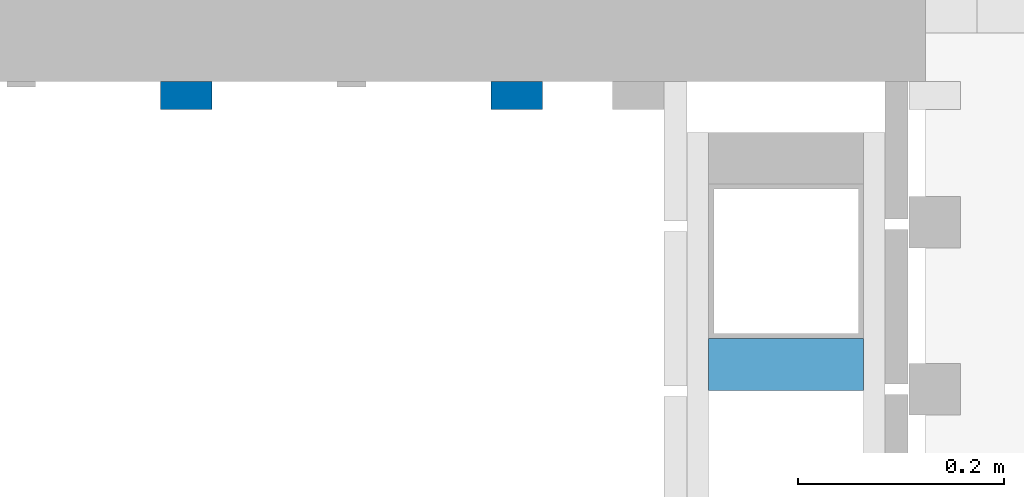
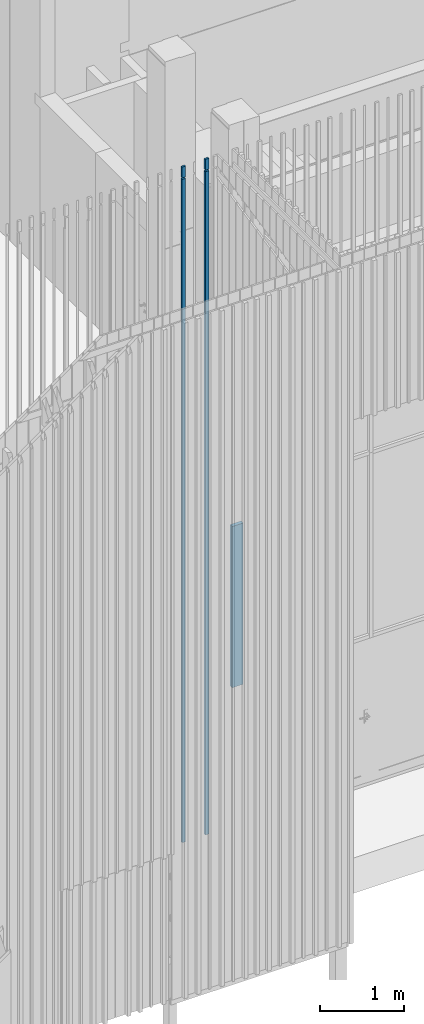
# One storey, part 143 of 390: 3 walls.
"""IFC2X3 building model written with IfcOpenShell, lengths in millimetres."""

from ifc_helpers import new_model, entity, si_unit, converted_unit, derived_unit, money_unit, direction, frame, origin_with_axes, place, context, subcontext, project, spatial, faceted_brep, material, material_list, type_object, element, save


model = new_model("IFC2X3")

# Units and contexts
model_context = context("Model", 3, precision=1e-05, world=origin_with_axes(), true_north=direction((0.0, 1.0)))
body_context = subcontext(model_context, "Body", "Model", "MODEL_VIEW")
ifc_project = project(units=[si_unit("LENGTHUNIT", "METRE", prefix="MILLI"), si_unit("AREAUNIT", "SQUARE_METRE"), si_unit("VOLUMEUNIT", "CUBIC_METRE"), converted_unit("PLANEANGLEUNIT", "DEGREE", entity("IfcPlaneAngleMeasure", 0.0174532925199), si_unit("PLANEANGLEUNIT", "RADIAN"), dimensions=[0, 0, 0, 0, 0, 0, 0]), si_unit("SOLIDANGLEUNIT", "STERADIAN"), money_unit("EUR"), converted_unit("TIMEUNIT", "Year", entity("IfcTimeMeasure", 31556926.0), si_unit("TIMEUNIT", "SECOND"), dimensions=[0, 0, 1, 0, 0, 0, 0]), si_unit("MASSUNIT", "GRAM", prefix="KILO"), si_unit("THERMODYNAMICTEMPERATUREUNIT", "DEGREE_CELSIUS"), si_unit("LUMINOUSINTENSITYUNIT", "LUMEN"), si_unit("ENERGYUNIT", "JOULE", prefix="MEGA"), derived_unit("THERMALCONDUCTANCEUNIT", [(si_unit("POWERUNIT", "WATT"), 1), (si_unit("LENGTHUNIT", "METRE"), -1), (si_unit("THERMODYNAMICTEMPERATUREUNIT", "KELVIN"), -1)]), derived_unit("SPECIFICHEATCAPACITYUNIT", [(si_unit("ENERGYUNIT", "JOULE"), 1), (si_unit("MASSUNIT", "GRAM", prefix="KILO"), -1), (si_unit("THERMODYNAMICTEMPERATUREUNIT", "KELVIN"), -1)]), derived_unit("MASSDENSITYUNIT", [(si_unit("MASSUNIT", "GRAM", prefix="KILO"), 1), (si_unit("VOLUMEUNIT", "CUBIC_METRE"), -1)])], contexts=[model_context])

# Site, building, storey
site_placement = place(None, origin_with_axes())
site = spatial("IfcSite", under=ifc_project, at=site_placement, Name="Site", CompositionType="ELEMENT")
building_placement = place(site_placement, origin_with_axes())
building = spatial("IfcBuilding", under=site, at=building_placement, Name="Building", CompositionType="ELEMENT")
storey_placement = place(building_placement, origin_with_axes())
storey = spatial("IfcBuildingStorey", under=building, at=storey_placement, Name="1 korrus", CompositionType="ELEMENT", Elevation=0.0)

# Walls
ifc_material = material(Name="Site specified")
ifc_material_list = material_list([ifc_material, ifc_material])
wall_type = type_object("IfcWallType", Name="Puitfassaadi ribistik", PredefinedType="NOTDEFINED")
wall_1_placement = place(storey_placement, frame((128383.999994, 45260.999966, 100.000000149), z_axis=(0.0, 0.0, 1.0), x_axis=(-1.0, 0.0, 0.0)))
element("IfcWall", 1, at=wall_1_placement, inside=storey, type_object=wall_type, material=ifc_material_list, Name="Site specified", context=body_context, shape_type="Brep", body=[
    faceted_brep([(25.0, -1.99994610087, -3.12924797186e-06), (25.0, -2.00004241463, 9591.91726162), (-25.0, -2.00004241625, 9591.91726162), (-25.0, -1.99994610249, -3.12924797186e-06), (25.0, 25.0, 0.0), (25.0, 25.0, 9586.17822544), (-25.0, 25.0, 9586.17822544), (-25.0, 25.0, 0.0)], [[[0, 1, 2, 3]], [[4, 5, 1, 0]], [[5, 6, 2, 1]], [[3, 2, 6, 7]], [[0, 3, 7, 4]], [[7, 6, 5, 4]]]),
    faceted_brep([(-25.0, 25.0, 9764.99999985), (-25.0, 25.0, 9607.64737793), (-25.0, -2.00004241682, 9613.38641411), (-25.0, -2.00004241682, 9764.99999985), (25.0, 25.0, 9764.99999985), (25.0, 25.0, 9607.64737793), (25.0, -2.0000424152, 9613.38641411), (25.0, -2.0000424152, 9764.99999985)], [[[0, 1, 2, 3]], [[4, 5, 1, 0]], [[5, 6, 2, 1]], [[3, 2, 6, 7]], [[3, 7, 4, 0]], [[7, 6, 5, 4]]]),
])
wall_2_placement = place(storey_placement, frame((128703.999994, 45260.9999735, 100.000000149), z_axis=(0.0, 0.0, 1.0), x_axis=(-1.0, 0.0, 0.0)))
element("IfcWall", 2, at=wall_2_placement, inside=storey, type_object=wall_type, material=ifc_material_list, Name="Site specified", context=body_context, shape_type="Brep", body=[
    faceted_brep([(25.0, -1.99993859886, -3.12924797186e-06), (25.0, -2.00003491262, 9591.91726162), (-25.0, -2.00003491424, 9591.91726162), (-25.0, -1.99993860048, -3.12924797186e-06), (25.0, 25.0, 0.0), (25.0, 25.0, 9586.17822703), (-25.0, 25.0, 9586.17822703), (-25.0, 25.0, 0.0)], [[[0, 1, 2, 3]], [[4, 5, 1, 0]], [[5, 6, 2, 1]], [[3, 2, 6, 7]], [[0, 3, 7, 4]], [[7, 6, 5, 4]]]),
    faceted_brep([(-25.0, 25.0, 9764.99999985), (-25.0, 25.0, 9607.64737953), (-25.0, -2.00003491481, 9613.38641411), (-25.0, -2.00003491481, 9764.99999985), (25.0, 25.0, 9764.99999985), (25.0, 25.0, 9607.64737953), (25.0, -2.00003491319, 9613.38641411), (25.0, -2.00003491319, 9764.99999985)], [[[0, 1, 2, 3]], [[4, 5, 1, 0]], [[5, 6, 2, 1]], [[3, 2, 6, 7]], [[3, 7, 4, 0]], [[7, 6, 5, 4]]]),
])
wall_3_placement = place(storey_placement, frame((128964.999994, 44989.0000337, 2320.00000001), z_axis=(0.0, 0.0, 1.0), x_axis=(0.0, 1.0, 0.0)))
element("IfcWall", 3, at=wall_3_placement, inside=storey, type_object=wall_type, material=ifc_material, Name="Site specified", context=body_context, shape_type="Brep", body=[
    faceted_brep([(25.0, -74.9999999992, 2330.0), (-25.0, -74.9999999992, 2330.0), (-25.0, -74.9999999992, 0.0), (25.0, -74.9999999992, 0.0), (25.0, 74.9999999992, 2330.0), (-25.0, 74.9999999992, 2330.0), (-25.0, 74.9999999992, 0.0), (25.0, 74.9999999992, 0.0)], [[[0, 1, 2, 3]], [[4, 5, 1, 0]], [[1, 5, 6, 2]], [[7, 3, 2, 6]], [[4, 0, 3, 7]], [[5, 4, 7, 6]]]),
])

save(model, "model.ifc")
